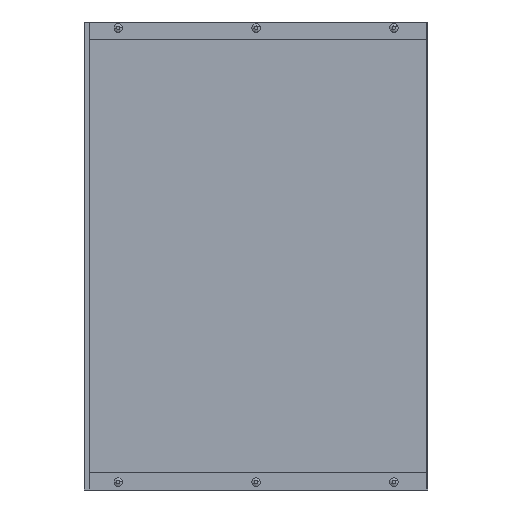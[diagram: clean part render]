
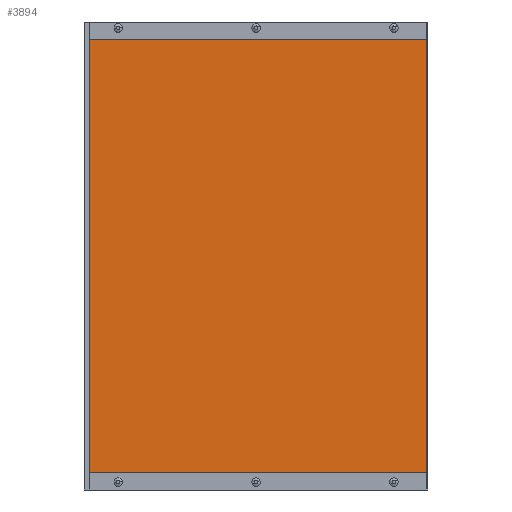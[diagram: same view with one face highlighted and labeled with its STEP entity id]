
A CAD part, front view. The second image highlights one B-rep face of the part: STEP entity #3894.
In plain terms, the highlighted planar face has unit normal (0, -1, 0).
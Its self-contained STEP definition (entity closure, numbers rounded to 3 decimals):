
#71 = VERTEX_POINT ( 'NONE', #1733 ) ;
#156 = ORIENTED_EDGE ( 'NONE', *, *, #745, .T. ) ;
#302 = DIRECTION ( 'NONE',  ( 0., 1., 0. ) ) ;
#304 = LINE ( 'NONE', #1324, #4370 ) ;
#387 = CARTESIAN_POINT ( 'NONE',  ( -8., 61.1, 25. ) ) ;
#485 = DIRECTION ( 'NONE',  ( 0., 0., 1. ) ) ;
#704 = ORIENTED_EDGE ( 'NONE', *, *, #2686, .F. ) ;
#745 = EDGE_CURVE ( 'NONE', #2943, #4461, #2040, .T. ) ;
#834 = LINE ( 'NONE', #4028, #1237 ) ;
#975 = FACE_OUTER_BOUND ( 'NONE', #1941, .T. ) ;
#1237 = VECTOR ( 'NONE', #2628, 1000. ) ;
#1324 = CARTESIAN_POINT ( 'NONE',  ( -8., 61.1, 654. ) ) ;
#1337 = DIRECTION ( 'NONE',  ( 0., 0., -1. ) ) ;
#1513 = ORIENTED_EDGE ( 'NONE', *, *, #2594, .F. ) ;
#1547 = AXIS2_PLACEMENT_3D ( 'NONE', #4102, #302, #485 ) ;
#1651 = CARTESIAN_POINT ( 'NONE',  ( -6.6, 61.1, 654. ) ) ;
#1733 = CARTESIAN_POINT ( 'NONE',  ( 488.6, 61.1, 654. ) ) ;
#1863 = LINE ( 'NONE', #387, #2178 ) ;
#1941 = EDGE_LOOP ( 'NONE', ( #704, #3016, #1513, #156 ) ) ;
#2040 = LINE ( 'NONE', #2746, #4443 ) ;
#2084 = CARTESIAN_POINT ( 'NONE',  ( -6.6, 61.1, 25. ) ) ;
#2094 = DIRECTION ( 'NONE',  ( 1., 0., 0. ) ) ;
#2129 = EDGE_CURVE ( 'NONE', #2451, #71, #834, .T. ) ;
#2178 = VECTOR ( 'NONE', #2843, 1000. ) ;
#2451 = VERTEX_POINT ( 'NONE', #4015 ) ;
#2594 = EDGE_CURVE ( 'NONE', #2943, #71, #304, .T. ) ;
#2628 = DIRECTION ( 'NONE',  ( 0., 0., 1. ) ) ;
#2686 = EDGE_CURVE ( 'NONE', #2451, #4461, #1863, .T. ) ;
#2746 = CARTESIAN_POINT ( 'NONE',  ( -6.6, 61.1, 679. ) ) ;
#2843 = DIRECTION ( 'NONE',  ( -1., 0., 0. ) ) ;
#2943 = VERTEX_POINT ( 'NONE', #1651 ) ;
#3016 = ORIENTED_EDGE ( 'NONE', *, *, #2129, .T. ) ;
#3031 = PLANE ( 'NONE',  #1547 ) ;
#3894 = ADVANCED_FACE ( 'NONE', ( #975 ), #3031, .F. ) ;
#4015 = CARTESIAN_POINT ( 'NONE',  ( 488.6, 61.1, 25. ) ) ;
#4028 = CARTESIAN_POINT ( 'NONE',  ( 488.6, 61.1, 679. ) ) ;
#4102 = CARTESIAN_POINT ( 'NONE',  ( -8., 61.1, 679. ) ) ;
#4370 = VECTOR ( 'NONE', #2094, 1000. ) ;
#4443 = VECTOR ( 'NONE', #1337, 1000. ) ;
#4461 = VERTEX_POINT ( 'NONE', #2084 ) ;
